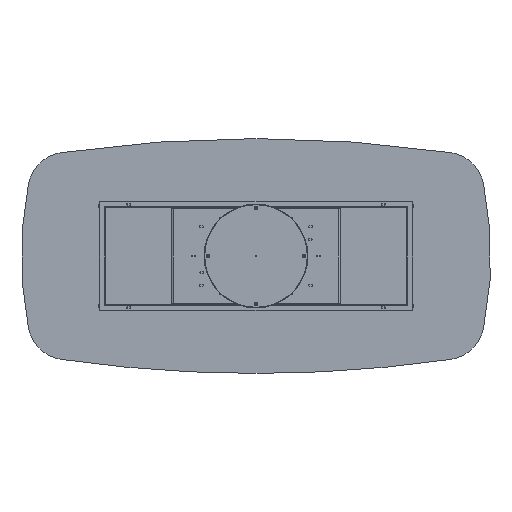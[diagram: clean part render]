
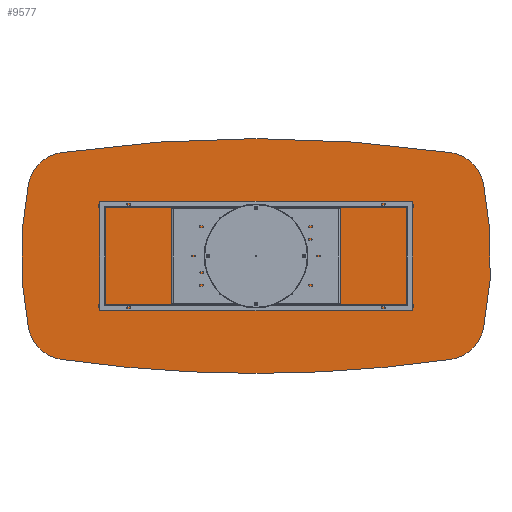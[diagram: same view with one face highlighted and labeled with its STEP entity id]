
A CAD part, front view. The second image highlights one B-rep face of the part: STEP entity #9577.
In plain terms, the highlighted planar face has unit normal (0, -1, 0).
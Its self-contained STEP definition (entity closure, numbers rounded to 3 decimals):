
#60 = CARTESIAN_POINT ( 'NONE',  ( -966.467, 0., 330.452 ) ) ;
#113 = ORIENTED_EDGE ( 'NONE', *, *, #7616, .F. ) ;
#330 = EDGE_CURVE ( 'NONE', #503, #5126, #2856, .T. ) ;
#503 = VERTEX_POINT ( 'NONE', #3411 ) ;
#531 = ORIENTED_EDGE ( 'NONE', *, *, #2524, .T. ) ;
#648 = CIRCLE ( 'NONE', #3984, 6950. ) ;
#744 = VERTEX_POINT ( 'NONE', #7165 ) ;
#782 = DIRECTION ( 'NONE',  ( 0., 0., 1. ) ) ;
#870 = CARTESIAN_POINT ( 'NONE',  ( 0., 0., -600. ) ) ;
#1032 = CIRCLE ( 'NONE', #12997, 1845. ) ;
#1299 = VERTEX_POINT ( 'NONE', #5204 ) ;
#1309 = AXIS2_PLACEMENT_3D ( 'NONE', #12573, #8288, #782 ) ;
#1453 = EDGE_LOOP ( 'NONE', ( #2415, #8683, #113, #10088, #1832, #7696, #12071, #5693, #531 ) ) ;
#1832 = ORIENTED_EDGE ( 'NONE', *, *, #8699, .F. ) ;
#2275 = DIRECTION ( 'NONE',  ( 0., 0., 1. ) ) ;
#2367 = DIRECTION ( 'NONE',  ( 0., 0., 1. ) ) ;
#2415 = ORIENTED_EDGE ( 'NONE', *, *, #8968, .F. ) ;
#2468 = VERTEX_POINT ( 'NONE', #9154 ) ;
#2524 = EDGE_CURVE ( 'NONE', #503, #3237, #10339, .T. ) ;
#2716 = DIRECTION ( 'NONE',  ( 0., 1., 0. ) ) ;
#2818 = DIRECTION ( 'NONE',  ( 0., 0., 1. ) ) ;
#2856 = CIRCLE ( 'NONE', #11050, 1845. ) ;
#2873 = FACE_OUTER_BOUND ( 'NONE', #1453, .T. ) ;
#2887 = CARTESIAN_POINT ( 'NONE',  ( -966.467, 0., -330.452 ) ) ;
#2952 = DIRECTION ( 'NONE',  ( 0., 0., 1. ) ) ;
#3237 = VERTEX_POINT ( 'NONE', #11063 ) ;
#3276 = CIRCLE ( 'NONE', #5066, 6950. ) ;
#3358 = AXIS2_PLACEMENT_3D ( 'NONE', #7047, #7819, #4827 ) ;
#3411 = CARTESIAN_POINT ( 'NONE',  ( 1162.39, 0., 370.629 ) ) ;
#3473 = CARTESIAN_POINT ( 'NONE',  ( 0., 0., 6350. ) ) ;
#3755 = CARTESIAN_POINT ( 'NONE',  ( 645., 0., 0. ) ) ;
#3810 = DIRECTION ( 'NONE',  ( 0., 0., 1. ) ) ;
#3855 = DIRECTION ( 'NONE',  ( 0., 1., 0. ) ) ;
#3984 = AXIS2_PLACEMENT_3D ( 'NONE', #3473, #2716, #12150 ) ;
#4231 = DIRECTION ( 'NONE',  ( 0., -1., 0. ) ) ;
#4827 = DIRECTION ( 'NONE',  ( 0., 0., 1. ) ) ;
#5066 = AXIS2_PLACEMENT_3D ( 'NONE', #10451, #9862, #2367 ) ;
#5126 = VERTEX_POINT ( 'NONE', #7675 ) ;
#5204 = CARTESIAN_POINT ( 'NONE',  ( -1162.39, 0., -370.629 ) ) ;
#5460 = AXIS2_PLACEMENT_3D ( 'NONE', #2887, #12522, #2952 ) ;
#5677 = CIRCLE ( 'NONE', #7447, 200. ) ;
#5693 = ORIENTED_EDGE ( 'NONE', *, *, #330, .F. ) ;
#5738 = CIRCLE ( 'NONE', #13699, 6950. ) ;
#6068 = PLANE ( 'NONE',  #1309 ) ;
#6455 = EDGE_CURVE ( 'NONE', #744, #2468, #5677, .T. ) ;
#6686 = DIRECTION ( 'NONE',  ( 0., 0., 1. ) ) ;
#6764 = EDGE_CURVE ( 'NONE', #1299, #6870, #11431, .T. ) ;
#6820 = VERTEX_POINT ( 'NONE', #870 ) ;
#6870 = VERTEX_POINT ( 'NONE', #8710 ) ;
#7047 = CARTESIAN_POINT ( 'NONE',  ( 966.467, 0., -330.452 ) ) ;
#7165 = CARTESIAN_POINT ( 'NONE',  ( -995.103, 0., 528.391 ) ) ;
#7177 = VERTEX_POINT ( 'NONE', #10983 ) ;
#7285 = CARTESIAN_POINT ( 'NONE',  ( 966.467, 0., 330.452 ) ) ;
#7447 = AXIS2_PLACEMENT_3D ( 'NONE', #60, #4231, #2275 ) ;
#7616 = EDGE_CURVE ( 'NONE', #1299, #2468, #1032, .T. ) ;
#7675 = CARTESIAN_POINT ( 'NONE',  ( 1162.39, 0., -370.629 ) ) ;
#7696 = ORIENTED_EDGE ( 'NONE', *, *, #9894, .F. ) ;
#7819 = DIRECTION ( 'NONE',  ( 0., -1., 0. ) ) ;
#7996 = DIRECTION ( 'NONE',  ( 0., 1., 0. ) ) ;
#8288 = DIRECTION ( 'NONE',  ( 0., 1., 0. ) ) ;
#8683 = ORIENTED_EDGE ( 'NONE', *, *, #6455, .T. ) ;
#8699 = EDGE_CURVE ( 'NONE', #6820, #6870, #3276, .T. ) ;
#8710 = CARTESIAN_POINT ( 'NONE',  ( -995.103, 0., -528.391 ) ) ;
#8968 = EDGE_CURVE ( 'NONE', #744, #3237, #5738, .T. ) ;
#9136 = CARTESIAN_POINT ( 'NONE',  ( -645., 0., 0. ) ) ;
#9154 = CARTESIAN_POINT ( 'NONE',  ( -1162.39, 0., 370.629 ) ) ;
#9299 = DIRECTION ( 'NONE',  ( 0., -1., 0. ) ) ;
#9577 = ADVANCED_FACE ( 'NONE', ( #2873 ), #6068, .F. ) ;
#9674 = AXIS2_PLACEMENT_3D ( 'NONE', #7285, #9299, #3810 ) ;
#9699 = CARTESIAN_POINT ( 'NONE',  ( 0., 0., -6350. ) ) ;
#9862 = DIRECTION ( 'NONE',  ( 0., 1., 0. ) ) ;
#9894 = EDGE_CURVE ( 'NONE', #7177, #6820, #648, .T. ) ;
#10088 = ORIENTED_EDGE ( 'NONE', *, *, #6764, .T. ) ;
#10339 = CIRCLE ( 'NONE', #9674, 200. ) ;
#10451 = CARTESIAN_POINT ( 'NONE',  ( 0., 0., 6350. ) ) ;
#10457 = CIRCLE ( 'NONE', #3358, 200. ) ;
#10983 = CARTESIAN_POINT ( 'NONE',  ( 995.103, 0., -528.391 ) ) ;
#11050 = AXIS2_PLACEMENT_3D ( 'NONE', #9136, #3855, #2818 ) ;
#11063 = CARTESIAN_POINT ( 'NONE',  ( 995.103, 0., 528.391 ) ) ;
#11431 = CIRCLE ( 'NONE', #5460, 200. ) ;
#11922 = DIRECTION ( 'NONE',  ( 0., 0., 1. ) ) ;
#11992 = DIRECTION ( 'NONE',  ( 0., 1., 0. ) ) ;
#12071 = ORIENTED_EDGE ( 'NONE', *, *, #13303, .T. ) ;
#12150 = DIRECTION ( 'NONE',  ( 0., 0., 1. ) ) ;
#12522 = DIRECTION ( 'NONE',  ( 0., -1., 0. ) ) ;
#12573 = CARTESIAN_POINT ( 'NONE',  ( -322.5, 0., 3175. ) ) ;
#12997 = AXIS2_PLACEMENT_3D ( 'NONE', #3755, #7996, #6686 ) ;
#13303 = EDGE_CURVE ( 'NONE', #7177, #5126, #10457, .T. ) ;
#13699 = AXIS2_PLACEMENT_3D ( 'NONE', #9699, #11992, #11922 ) ;
